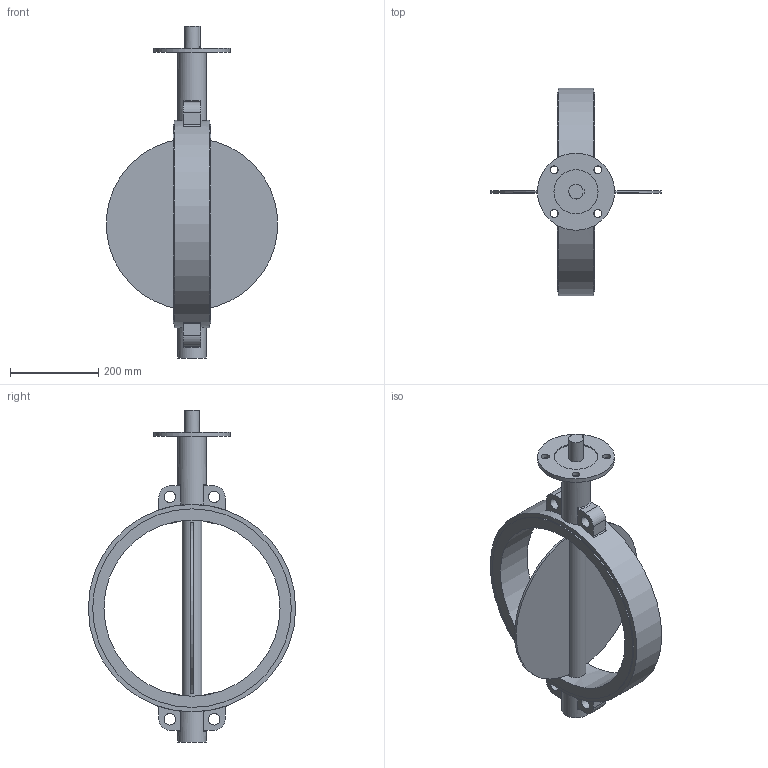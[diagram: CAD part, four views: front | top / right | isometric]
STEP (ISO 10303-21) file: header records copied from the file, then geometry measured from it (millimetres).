
FILE_DESCRIPTION(('STEP AP203'), '1');
FILE_NAME('青蜮铕 017W.YS_DN400_PN10', '', ('UNSPECIFIED'), ('UNSPECIFIED'), 'ASCON STEP Converter 1.6', 'ASCON Math Kernel', '');
FILE_SCHEMA(('CONFIG_CONTROL_DESIGN'));
Length unit declared in the file: millimetre
Bounding box: 388.18 x 471 x 754 mm (x, y, z)
Volume: 6474637.6 mm3; surface area: 716683.3 mm2
Topology: 1 solids, 1 shells, 89 faces, 220 edges, 146 vertices
Faces by surface type: plane 48, cylinder 37, torus 4
Full cylindrical faces by diameter (mm): 18 x4, 26 x4, 33.2 x1, 45 x1, 65 x2, 100 x1, 175 x1, 400 x1, 451 x2, 471 x1
Entity records: 4594 total; most frequent: CARTESIAN_POINT 1702, DIRECTION 452, ORIENTED_EDGE 404, EDGE_CURVE 202, AXIS2_PLACEMENT_3D 180, VERTEX_POINT 146, EDGE_LOOP 140, FACE_BOUND 107
